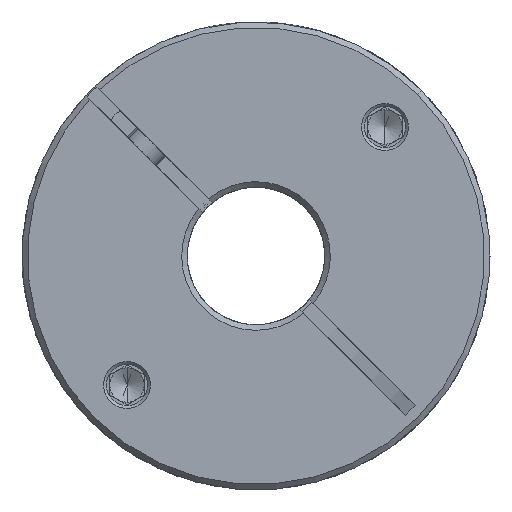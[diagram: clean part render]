
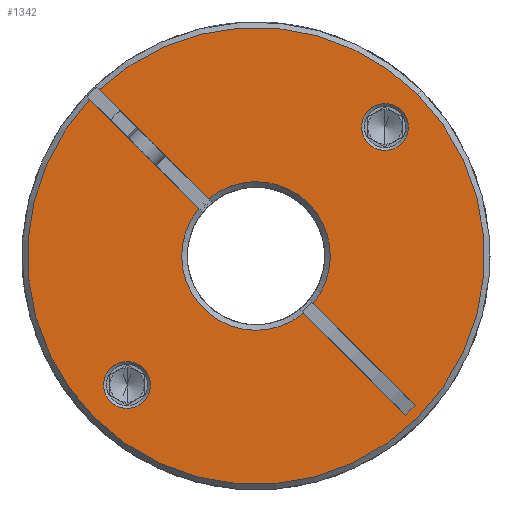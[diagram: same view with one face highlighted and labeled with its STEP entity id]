
A CAD part, front view. The second image highlights one B-rep face of the part: STEP entity #1342.
In plain terms, the highlighted planar face has unit normal (0, -1, 0).
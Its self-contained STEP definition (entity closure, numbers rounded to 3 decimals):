
#209 = DIRECTION ( 'NONE',  ( 0.707, 0., -0.707 ) ) ;
#664 = CARTESIAN_POINT ( 'NONE',  ( 4.902, -67.045, 75.637 ) ) ;
#719 = CARTESIAN_POINT ( 'NONE',  ( 20.741, -67.045, 91.476 ) ) ;
#765 = AXIS2_PLACEMENT_3D ( 'NONE', #11586, #14727, #18177 ) ;
#1017 = CIRCLE ( 'NONE', #4213, 33.2 ) ;
#1342 = ADVANCED_FACE ( 'NONE', ( #11500, #3164, #2078 ), #11260, .T. ) ;
#1717 = ORIENTED_EDGE ( 'NONE', *, *, #14759, .T. ) ;
#1892 = EDGE_CURVE ( 'NONE', #18406, #8656, #20909, .T. ) ;
#2048 = EDGE_CURVE ( 'NONE', #9414, #7539, #16170, .T. ) ;
#2078 = FACE_OUTER_BOUND ( 'NONE', #16555, .T. ) ;
#2186 = CARTESIAN_POINT ( 'NONE',  ( -2.735, -67.045, 68. ) ) ;
#3164 = FACE_BOUND ( 'NONE', #19643, .T. ) ;
#3211 = ORIENTED_EDGE ( 'NONE', *, *, #16291, .T. ) ;
#3331 = EDGE_CURVE ( 'NONE', #12113, #5150, #10659, .T. ) ;
#3417 = DIRECTION ( 'NONE',  ( 0.707, 0., 0.707 ) ) ;
#3524 = CARTESIAN_POINT ( 'NONE',  ( -25.493, -67.045, 92.172 ) ) ;
#3887 = EDGE_CURVE ( 'NONE', #4692, #12882, #10503, .T. ) ;
#3969 = DIRECTION ( 'NONE',  ( 0., 1., 0. ) ) ;
#3991 = CARTESIAN_POINT ( 'NONE',  ( -11.046, -67.045, 74.897 ) ) ;
#4030 = CIRCLE ( 'NONE', #11596, 10.8 ) ;
#4213 = AXIS2_PLACEMENT_3D ( 'NONE', #10388, #17166, #18928 ) ;
#4303 = LINE ( 'NONE', #16809, #17072 ) ;
#4402 = CARTESIAN_POINT ( 'NONE',  ( 18.988, -67.045, 44.862 ) ) ;
#4692 = VERTEX_POINT ( 'NONE', #18771 ) ;
#4693 = DIRECTION ( 'NONE',  ( 0., 1., 0. ) ) ;
#5080 = AXIS2_PLACEMENT_3D ( 'NONE', #19603, #11125, #7867 ) ;
#5150 = VERTEX_POINT ( 'NONE', #664 ) ;
#5160 = EDGE_CURVE ( 'NONE', #9414, #13828, #9395, .T. ) ;
#5217 = VERTEX_POINT ( 'NONE', #8952 ) ;
#5471 = ORIENTED_EDGE ( 'NONE', *, *, #17535, .T. ) ;
#5495 = VERTEX_POINT ( 'NONE', #3524 ) ;
#5584 = EDGE_CURVE ( 'NONE', #9297, #13828, #19016, .T. ) ;
#5630 = ORIENTED_EDGE ( 'NONE', *, *, #7578, .T. ) ;
#5829 = CARTESIAN_POINT ( 'NONE',  ( -26.211, -67.045, 44.524 ) ) ;
#6285 = CARTESIAN_POINT ( 'NONE',  ( -19.069, -67.045, 51.666 ) ) ;
#6425 = DIRECTION ( 'NONE',  ( 0., 1., 0. ) ) ;
#6709 = DIRECTION ( 'NONE',  ( 0., -1., 0. ) ) ;
#6874 = DIRECTION ( 'NONE',  ( 0., 1., 0. ) ) ;
#6895 = CARTESIAN_POINT ( 'NONE',  ( -3.442, -67.045, 67.293 ) ) ;
#7224 = CARTESIAN_POINT ( 'NONE',  ( 20.402, -67.045, 46.277 ) ) ;
#7389 = DIRECTION ( 'NONE',  ( 0.707, 0., -0.707 ) ) ;
#7448 = ORIENTED_EDGE ( 'NONE', *, *, #3331, .T. ) ;
#7539 = VERTEX_POINT ( 'NONE', #20034 ) ;
#7578 = EDGE_CURVE ( 'NONE', #5217, #13825, #4303, .T. ) ;
#7867 = DIRECTION ( 'NONE',  ( 0.707, 0., 0.707 ) ) ;
#8188 = ORIENTED_EDGE ( 'NONE', *, *, #5584, .F. ) ;
#8325 = CARTESIAN_POINT ( 'NONE',  ( -2.735, -67.045, 68. ) ) ;
#8438 = DIRECTION ( 'NONE',  ( 0.707, 0., -0.707 ) ) ;
#8656 = VERTEX_POINT ( 'NONE', #719 ) ;
#8952 = CARTESIAN_POINT ( 'NONE',  ( 5.576, -67.045, 61.103 ) ) ;
#9297 = VERTEX_POINT ( 'NONE', #14894 ) ;
#9395 = CIRCLE ( 'NONE', #16213, 10.8 ) ;
#9414 = VERTEX_POINT ( 'NONE', #20173 ) ;
#9556 = ORIENTED_EDGE ( 'NONE', *, *, #13034, .T. ) ;
#9560 = ORIENTED_EDGE ( 'NONE', *, *, #18246, .T. ) ;
#9650 = DIRECTION ( 'NONE',  ( 0.707, 0., 0.707 ) ) ;
#9653 = CARTESIAN_POINT ( 'NONE',  ( -21.473, -67.045, 49.262 ) ) ;
#10270 = DIRECTION ( 'NONE',  ( 0.707, 0., 0.707 ) ) ;
#10326 = EDGE_CURVE ( 'NONE', #8656, #5495, #15128, .T. ) ;
#10388 = CARTESIAN_POINT ( 'NONE',  ( -2.735, -67.045, 68. ) ) ;
#10503 = CIRCLE ( 'NONE', #12431, 3.4 ) ;
#10573 = AXIS2_PLACEMENT_3D ( 'NONE', #18691, #6874, #3417 ) ;
#10659 = CIRCLE ( 'NONE', #16178, 10.8 ) ;
#10892 = DIRECTION ( 'NONE',  ( 0., -1., 0. ) ) ;
#11125 = DIRECTION ( 'NONE',  ( 0., -1., 0. ) ) ;
#11260 = PLANE ( 'NONE',  #5080 ) ;
#11500 = FACE_BOUND ( 'NONE', #14770, .T. ) ;
#11539 = CARTESIAN_POINT ( 'NONE',  ( -23.878, -67.045, 46.858 ) ) ;
#11562 = DIRECTION ( 'NONE',  ( 0.707, 0., 0.707 ) ) ;
#11586 = CARTESIAN_POINT ( 'NONE',  ( -21.473, -67.045, 49.262 ) ) ;
#11596 = AXIS2_PLACEMENT_3D ( 'NONE', #11855, #13816, #10270 ) ;
#11633 = CARTESIAN_POINT ( 'NONE',  ( 16.003, -67.045, 86.738 ) ) ;
#11855 = CARTESIAN_POINT ( 'NONE',  ( -2.735, -67.045, 68. ) ) ;
#12113 = VERTEX_POINT ( 'NONE', #15735 ) ;
#12126 = CIRCLE ( 'NONE', #765, 3.4 ) ;
#12431 = AXIS2_PLACEMENT_3D ( 'NONE', #11633, #6425, #14886 ) ;
#12433 = DIRECTION ( 'NONE',  ( 0.707, 0., 0.707 ) ) ;
#12463 = LINE ( 'NONE', #15815, #14254 ) ;
#12882 = VERTEX_POINT ( 'NONE', #16654 ) ;
#13034 = EDGE_CURVE ( 'NONE', #9297, #18406, #1017, .T. ) ;
#13816 = DIRECTION ( 'NONE',  ( 0., 1., 0. ) ) ;
#13825 = VERTEX_POINT ( 'NONE', #7224 ) ;
#13828 = VERTEX_POINT ( 'NONE', #3991 ) ;
#13972 = ORIENTED_EDGE ( 'NONE', *, *, #15904, .T. ) ;
#14078 = VERTEX_POINT ( 'NONE', #11539 ) ;
#14229 = DIRECTION ( 'NONE',  ( 0.707, 0., 0.707 ) ) ;
#14254 = VECTOR ( 'NONE', #7389, 1000. ) ;
#14723 = VECTOR ( 'NONE', #19420, 1000. ) ;
#14727 = DIRECTION ( 'NONE',  ( 0., 1., 0. ) ) ;
#14759 = EDGE_CURVE ( 'NONE', #5495, #12113, #12463, .T. ) ;
#14770 = EDGE_LOOP ( 'NONE', ( #13972, #19563 ) ) ;
#14886 = DIRECTION ( 'NONE',  ( 0.707, 0., 0.707 ) ) ;
#14894 = CARTESIAN_POINT ( 'NONE',  ( -26.908, -67.045, 90.758 ) ) ;
#15110 = VECTOR ( 'NONE', #8438, 1000. ) ;
#15128 = CIRCLE ( 'NONE', #20930, 33.2 ) ;
#15331 = DIRECTION ( 'NONE',  ( 0.707, 0., -0.707 ) ) ;
#15631 = ORIENTED_EDGE ( 'NONE', *, *, #1892, .T. ) ;
#15713 = DIRECTION ( 'NONE',  ( 0., 1., 0. ) ) ;
#15735 = CARTESIAN_POINT ( 'NONE',  ( -9.632, -67.045, 76.311 ) ) ;
#15814 = EDGE_CURVE ( 'NONE', #14078, #16164, #12126, .T. ) ;
#15815 = CARTESIAN_POINT ( 'NONE',  ( -2.028, -67.045, 68.707 ) ) ;
#15904 = EDGE_CURVE ( 'NONE', #12882, #4692, #20781, .T. ) ;
#16164 = VERTEX_POINT ( 'NONE', #6285 ) ;
#16170 = LINE ( 'NONE', #21688, #15110 ) ;
#16178 = AXIS2_PLACEMENT_3D ( 'NONE', #18815, #15713, #9650 ) ;
#16213 = AXIS2_PLACEMENT_3D ( 'NONE', #2186, #3969, #12433 ) ;
#16291 = EDGE_CURVE ( 'NONE', #13825, #7539, #20224, .T. ) ;
#16555 = EDGE_LOOP ( 'NONE', ( #8188, #9556, #15631, #21579, #1717, #7448, #9560, #5630, #3211, #16715, #17770 ) ) ;
#16654 = CARTESIAN_POINT ( 'NONE',  ( 18.407, -67.045, 89.142 ) ) ;
#16715 = ORIENTED_EDGE ( 'NONE', *, *, #2048, .F. ) ;
#16809 = CARTESIAN_POINT ( 'NONE',  ( -2.028, -67.045, 68.707 ) ) ;
#17072 = VECTOR ( 'NONE', #15331, 1000. ) ;
#17099 = CIRCLE ( 'NONE', #19851, 3.4 ) ;
#17166 = DIRECTION ( 'NONE',  ( 0., -1., 0. ) ) ;
#17535 = EDGE_CURVE ( 'NONE', #16164, #14078, #17099, .T. ) ;
#17550 = AXIS2_PLACEMENT_3D ( 'NONE', #17680, #10892, #14229 ) ;
#17680 = CARTESIAN_POINT ( 'NONE',  ( -2.735, -67.045, 68. ) ) ;
#17770 = ORIENTED_EDGE ( 'NONE', *, *, #5160, .T. ) ;
#18177 = DIRECTION ( 'NONE',  ( 0.707, 0., 0.707 ) ) ;
#18246 = EDGE_CURVE ( 'NONE', #5150, #5217, #4030, .T. ) ;
#18406 = VERTEX_POINT ( 'NONE', #5829 ) ;
#18691 = CARTESIAN_POINT ( 'NONE',  ( 16.003, -67.045, 86.738 ) ) ;
#18745 = VECTOR ( 'NONE', #209, 1000. ) ;
#18771 = CARTESIAN_POINT ( 'NONE',  ( 13.599, -67.045, 84.334 ) ) ;
#18815 = CARTESIAN_POINT ( 'NONE',  ( -2.735, -67.045, 68. ) ) ;
#18928 = DIRECTION ( 'NONE',  ( 0.707, 0., 0.707 ) ) ;
#19016 = LINE ( 'NONE', #6895, #18745 ) ;
#19420 = DIRECTION ( 'NONE',  ( -0.707, 0., -0.707 ) ) ;
#19563 = ORIENTED_EDGE ( 'NONE', *, *, #3887, .T. ) ;
#19568 = DIRECTION ( 'NONE',  ( 0.707, 0., 0.707 ) ) ;
#19603 = CARTESIAN_POINT ( 'NONE',  ( -2.735, -67.045, 68. ) ) ;
#19643 = EDGE_LOOP ( 'NONE', ( #5471, #20592 ) ) ;
#19851 = AXIS2_PLACEMENT_3D ( 'NONE', #9653, #4693, #19568 ) ;
#20034 = CARTESIAN_POINT ( 'NONE',  ( 18.988, -67.045, 44.862 ) ) ;
#20173 = CARTESIAN_POINT ( 'NONE',  ( 4.162, -67.045, 59.689 ) ) ;
#20224 = LINE ( 'NONE', #4402, #14723 ) ;
#20592 = ORIENTED_EDGE ( 'NONE', *, *, #15814, .T. ) ;
#20781 = CIRCLE ( 'NONE', #10573, 3.4 ) ;
#20909 = CIRCLE ( 'NONE', #17550, 33.2 ) ;
#20930 = AXIS2_PLACEMENT_3D ( 'NONE', #8325, #6709, #11562 ) ;
#21579 = ORIENTED_EDGE ( 'NONE', *, *, #10326, .T. ) ;
#21688 = CARTESIAN_POINT ( 'NONE',  ( -3.442, -67.045, 67.293 ) ) ;
